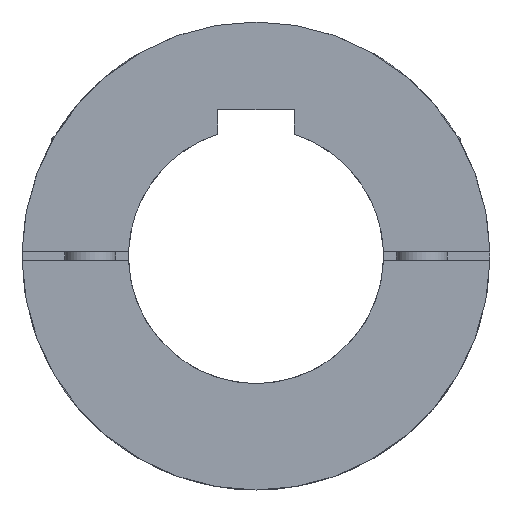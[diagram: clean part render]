
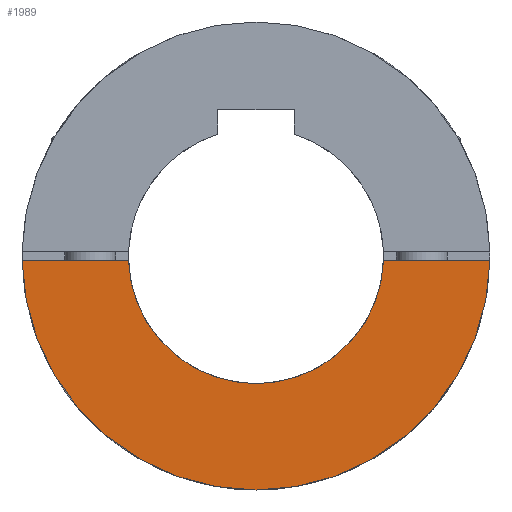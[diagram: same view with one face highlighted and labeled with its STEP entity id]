
A CAD part, left-side view. The second image highlights one B-rep face of the part: STEP entity #1989.
In plain terms, the highlighted planar face has unit normal (-1, 0, 0).
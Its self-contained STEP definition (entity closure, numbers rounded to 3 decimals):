
#68=PLANE('',#2254);
#194=LINE('',#3582,#337);
#245=LINE('',#3707,#388);
#337=VECTOR('',#2670,43.033);
#388=VECTOR('',#2809,43.033);
#547=FACE_OUTER_BOUND('',#699,.T.);
#699=EDGE_LOOP('',(#1773,#1774,#1775,#1776));
#847=CIRCLE('',#2188,30.);
#856=CIRCLE('',#2253,55.);
#973=VERTEX_POINT('',#3522);
#974=VERTEX_POINT('',#3523);
#994=VERTEX_POINT('',#3580);
#1024=VERTEX_POINT('',#3706);
#1201=EDGE_CURVE('',#973,#974,#847,.T.);
#1231=EDGE_CURVE('',#994,#974,#194,.T.);
#1285=EDGE_CURVE('',#1024,#973,#245,.T.);
#1288=EDGE_CURVE('',#994,#1024,#856,.T.);
#1773=ORIENTED_EDGE('',*,*,#1201,.T.);
#1774=ORIENTED_EDGE('',*,*,#1231,.F.);
#1775=ORIENTED_EDGE('',*,*,#1288,.T.);
#1776=ORIENTED_EDGE('',*,*,#1285,.T.);
#1989=ADVANCED_FACE('',(#547),#68,.T.);
#2188=AXIS2_PLACEMENT_3D('',#3524,#2618,#2619);
#2253=AXIS2_PLACEMENT_3D('',#3717,#2826,#2827);
#2254=AXIS2_PLACEMENT_3D('',#3718,#2828,#2829);
#2618=DIRECTION('center_axis',(1.,0.,0.));
#2619=DIRECTION('ref_axis',(0.,0.,1.));
#2670=DIRECTION('',(0.,-1.,0.));
#2809=DIRECTION('',(0.,1.,0.));
#2826=DIRECTION('center_axis',(-1.,0.,0.));
#2827=DIRECTION('ref_axis',(0.,1.,0.));
#2828=DIRECTION('center_axis',(-1.,0.,0.));
#2829=DIRECTION('ref_axis',(0.,-1.,0.));
#3522=CARTESIAN_POINT('',(0.,-29.983,-1.));
#3523=CARTESIAN_POINT('',(0.,29.983,-1.));
#3524=CARTESIAN_POINT('Origin',(0.,0.,0.));
#3580=CARTESIAN_POINT('',(0.,54.991,-1.));
#3582=CARTESIAN_POINT('',(0.,54.991,-1.));
#3706=CARTESIAN_POINT('',(0.,-54.991,-1.));
#3707=CARTESIAN_POINT('',(0.,-54.991,-1.));
#3717=CARTESIAN_POINT('Origin',(0.,0.,0.));
#3718=CARTESIAN_POINT('Origin',(0.,0.,-12.));
